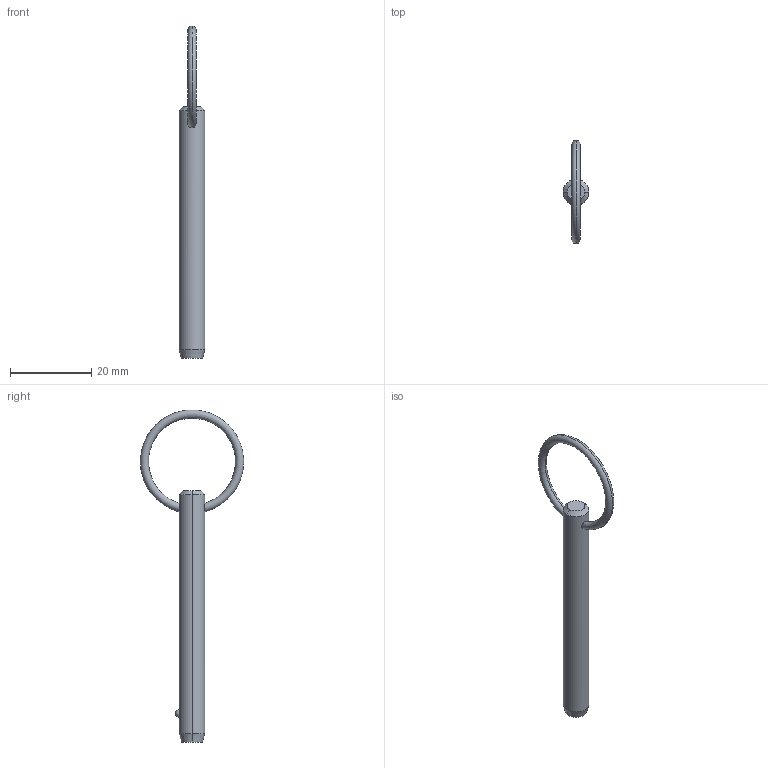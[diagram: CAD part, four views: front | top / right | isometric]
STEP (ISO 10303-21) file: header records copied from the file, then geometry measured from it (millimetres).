
FILE_DESCRIPTION (( 'STEP AP203' ), '1' );
FILE_NAME ('P1250.025-190.step', '2019-07-29T19:41:51', ( '' ), ( '' ), 'SwSTEP 2.0', 'SolidWorks 2017', '' );
FILE_SCHEMA (( 'CONFIG_CONTROL_DESIGN' ));
Length unit declared in the file: millimetre
Products named in the file (1): P1250.025-190
Bounding box: 6.35 x 25.38 x 81.62 mm (x, y, z)
Volume: 2150.8 mm3; surface area: 1690.2 mm2
Topology: 1 solids, 1 shells, 12 faces, 28 edges, 17 vertices
Faces by surface type: cone 4, torus 2, sphere 2, cylinder 2, plane 2
Entity records: 481 total; most frequent: CARTESIAN_POINT 148, DIRECTION 56, ORIENTED_EDGE 48, AXIS2_PLACEMENT_3D 25, EDGE_CURVE 24, VERTEX_POINT 15, EDGE_LOOP 15, CIRCLE 12
